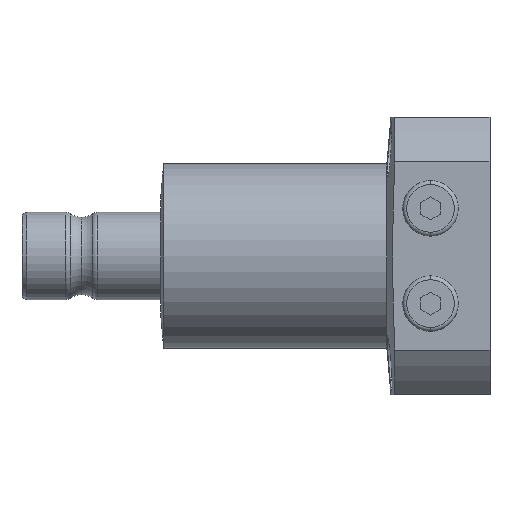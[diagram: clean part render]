
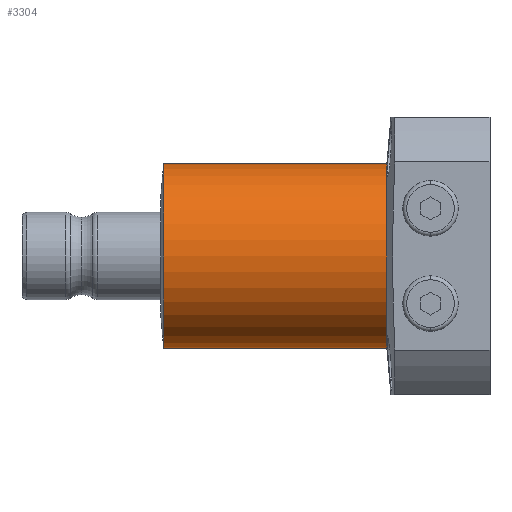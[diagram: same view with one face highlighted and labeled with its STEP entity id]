
A CAD part, left-side view. The second image highlights one B-rep face of the part: STEP entity #3304.
In plain terms, the highlighted cylindrical face has radius 23.25 mm (diameter 46.5 mm), a partial arc.
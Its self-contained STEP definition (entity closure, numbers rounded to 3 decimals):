
#101 = DIRECTION ( 'NONE',  ( 0., -1., 0. ) ) ;
#167 = ORIENTED_EDGE ( 'NONE', *, *, #2965, .F. ) ;
#639 = EDGE_CURVE ( 'NONE', #909, #3104, #2255, .T. ) ;
#771 = DIRECTION ( 'NONE',  ( 0., 0., -1. ) ) ;
#909 = VERTEX_POINT ( 'NONE', #3476 ) ;
#1080 = CARTESIAN_POINT ( 'NONE',  ( 0., 0., 23.25 ) ) ;
#1236 = ORIENTED_EDGE ( 'NONE', *, *, #3264, .F. ) ;
#1315 = CIRCLE ( 'NONE', #2706, 23.25 ) ;
#1324 = VECTOR ( 'NONE', #3050, 1000. ) ;
#1398 = DIRECTION ( 'NONE',  ( 0., -1., 0. ) ) ;
#1744 = DIRECTION ( 'NONE',  ( 0., -1., 0. ) ) ;
#1761 = CARTESIAN_POINT ( 'NONE',  ( 0., 26., -23.25 ) ) ;
#1769 = CIRCLE ( 'NONE', #2440, 23.25 ) ;
#1806 = DIRECTION ( 'NONE',  ( 0., -1., 0. ) ) ;
#1811 = CARTESIAN_POINT ( 'NONE',  ( 0., 0., -23.25 ) ) ;
#2015 = CARTESIAN_POINT ( 'NONE',  ( 0., 26., 0. ) ) ;
#2095 = CARTESIAN_POINT ( 'NONE',  ( 0., 26., 23.25 ) ) ;
#2226 = ORIENTED_EDGE ( 'NONE', *, *, #3951, .T. ) ;
#2243 = ORIENTED_EDGE ( 'NONE', *, *, #639, .T. ) ;
#2255 = LINE ( 'NONE', #1811, #1324 ) ;
#2326 = DIRECTION ( 'NONE',  ( 0., 0., -1. ) ) ;
#2440 = AXIS2_PLACEMENT_3D ( 'NONE', #2015, #101, #2326 ) ;
#2706 = AXIS2_PLACEMENT_3D ( 'NONE', #3687, #1806, #4012 ) ;
#2812 = CYLINDRICAL_SURFACE ( 'NONE', #3837, 23.25 ) ;
#2965 = EDGE_CURVE ( 'NONE', #3464, #3104, #1769, .T. ) ;
#3050 = DIRECTION ( 'NONE',  ( 0., -1., 0. ) ) ;
#3104 = VERTEX_POINT ( 'NONE', #1761 ) ;
#3189 = LINE ( 'NONE', #1080, #4048 ) ;
#3264 = EDGE_CURVE ( 'NONE', #3647, #3464, #3189, .T. ) ;
#3300 = CARTESIAN_POINT ( 'NONE',  ( 0., 0., 0. ) ) ;
#3304 = ADVANCED_FACE ( 'NONE', ( #3934 ), #2812, .T. ) ;
#3458 = CARTESIAN_POINT ( 'NONE',  ( 0., 82.278, 23.25 ) ) ;
#3464 = VERTEX_POINT ( 'NONE', #2095 ) ;
#3476 = CARTESIAN_POINT ( 'NONE',  ( 0., 82.278, -23.25 ) ) ;
#3647 = VERTEX_POINT ( 'NONE', #3458 ) ;
#3687 = CARTESIAN_POINT ( 'NONE',  ( 0., 82.278, 0. ) ) ;
#3837 = AXIS2_PLACEMENT_3D ( 'NONE', #3300, #1744, #771 ) ;
#3853 = EDGE_LOOP ( 'NONE', ( #1236, #2226, #2243, #167 ) ) ;
#3934 = FACE_OUTER_BOUND ( 'NONE', #3853, .T. ) ;
#3951 = EDGE_CURVE ( 'NONE', #3647, #909, #1315, .T. ) ;
#4012 = DIRECTION ( 'NONE',  ( 0., 0., -1. ) ) ;
#4048 = VECTOR ( 'NONE', #1398, 1000. ) ;
